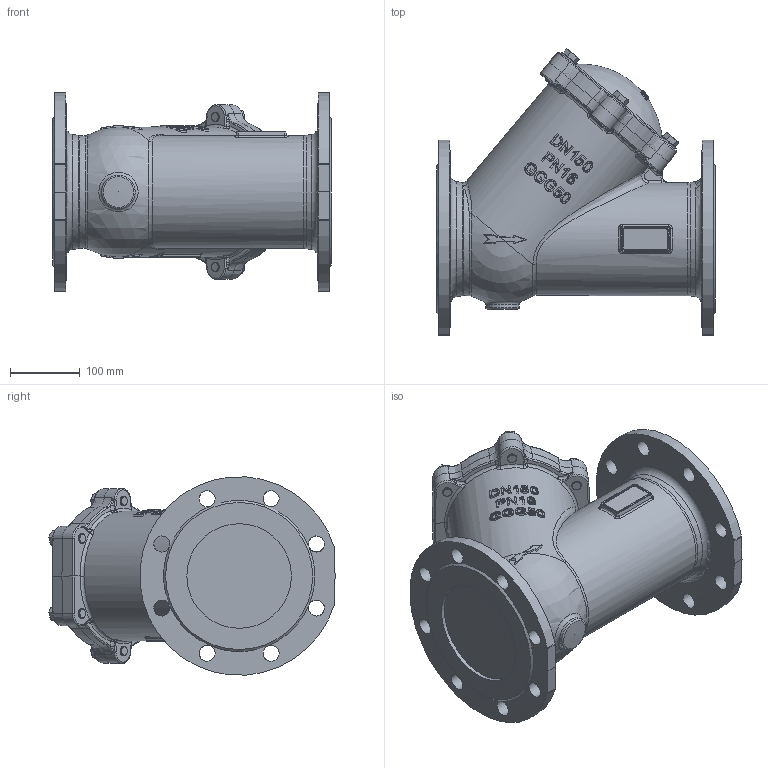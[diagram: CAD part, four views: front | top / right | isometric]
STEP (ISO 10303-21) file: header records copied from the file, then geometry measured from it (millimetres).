
FILE_DESCRIPTION (( 'STEP AP214' ), '1' );
FILE_NAME ('DN150.STEP', '2026-09-15T12:16:47', ( '' ), ( '' ), 'SwSTEP 2.0', 'SolidWorks 2024', '' );
FILE_SCHEMA (( 'AUTOMOTIVE_DESIGN' ));
Length unit declared in the file: millimetre
Products named in the file (1): DN150
Bounding box: 400 x 410.42 x 284.23 mm (x, y, z)
Volume: 15374627.1 mm3; surface area: 601181.9 mm2
Topology: 1 solids, 14 shells, 1067 faces, 2756 edges, 1737 vertices
Faces by surface type: bspline 589, plane 195, cylinder 143, cone 83, torus 35, sphere 22
Full cylindrical faces by diameter (mm): 14 x12, 15 x6, 23 x16, 28 x6, 48 x1, 150 x2, 162 x1
Entity records: 61793 total; most frequent: CARTESIAN_POINT 32426, ORIENTED_EDGE 5192, EDGE_CURVE 2596, DIRECTION 2190, B_SPLINE_CURVE_WITH_KNOTS 1767, VERTEX_POINT 1670, EDGE_LOOP 1218, FACE_OUTER_BOUND 1115
